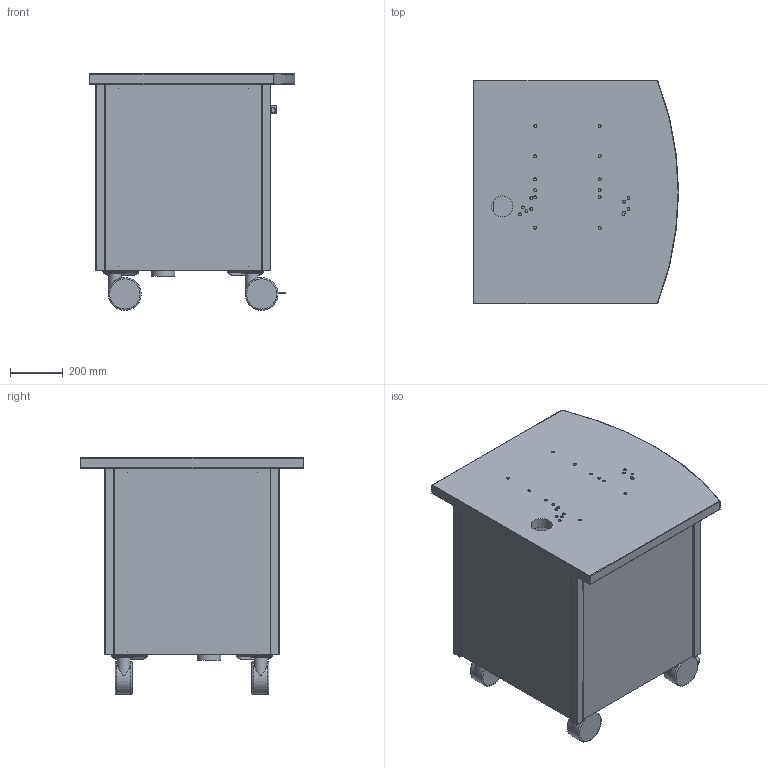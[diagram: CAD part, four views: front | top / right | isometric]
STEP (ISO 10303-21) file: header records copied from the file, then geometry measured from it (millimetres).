
FILE_DESCRIPTION(/* description */ ('Stahlrohr - 35x35x1,5-710'),/* implementation_level */ '2;1');
FILE_NAME(/* name */ 'C:\CAD-Kunden\Ebinger\500000_Fertigungsteile\530000 - WMF\532085.stp',/* time_stamp */ '2020-01-20T20:00:11+01:00',/* author */ ('Admin'),/* organization */ (''),/* preprocessor_version */ 'ST-DEVELOPER v15.2',/* originating_system */ 'Autodesk Inventor 2014',/* authorisation */ '');
FILE_SCHEMA (('AUTOMOTIVE_DESIGN { 1 0 10303 214 3 1 1 }'));
Length unit declared in the file: millimetre
Products named in the file (25): 530012; 530005; 530007; 530008; 530009; 530002; 530001; 530000; 530014; 530015; 530083; 530084; 530077; 530082; 530085; 100365; 100143; 100144; 100145-1; 2017_11_13__11-24-14-496; 2017_11_13__11-24-14-496_1; 2017_11_13__11-24-14-496_2; 100191; Steckdose; 532085
Bounding box: 780 x 850 x 900 mm (x, y, z)
Volume: 69026250.4 mm3; surface area: 7424460.2 mm2
Topology: 34 solids, 54 shells, 1708 faces, 4699 edges, 3034 vertices
Faces by surface type: plane 836, cylinder 549, cone 204, torus 87, bspline 16, sphere 16
Full cylindrical faces by diameter (mm): 0.004 x1, 4.917 x4, 5 x87, 7 x28, 7.8 x16, 7.85 x4, 8.975 x8, 10 x18, 10.225 x4, 11 x20, 11.96 x4, 15 x4, 15.6 x1, 18.7 x4, 19 x5, 27 x1, 30 x1, 35 x2, 48 x4, 80 x2, 90 x1, 125 x4
Entity records: 20883 total; most frequent: CARTESIAN_POINT 4181, DIRECTION 3498, ORIENTED_EDGE 2867, EDGE_CURVE 1496, AXIS2_PLACEMENT_3D 1355, VERTEX_POINT 1057, EDGE_LOOP 1008, LINE 788
